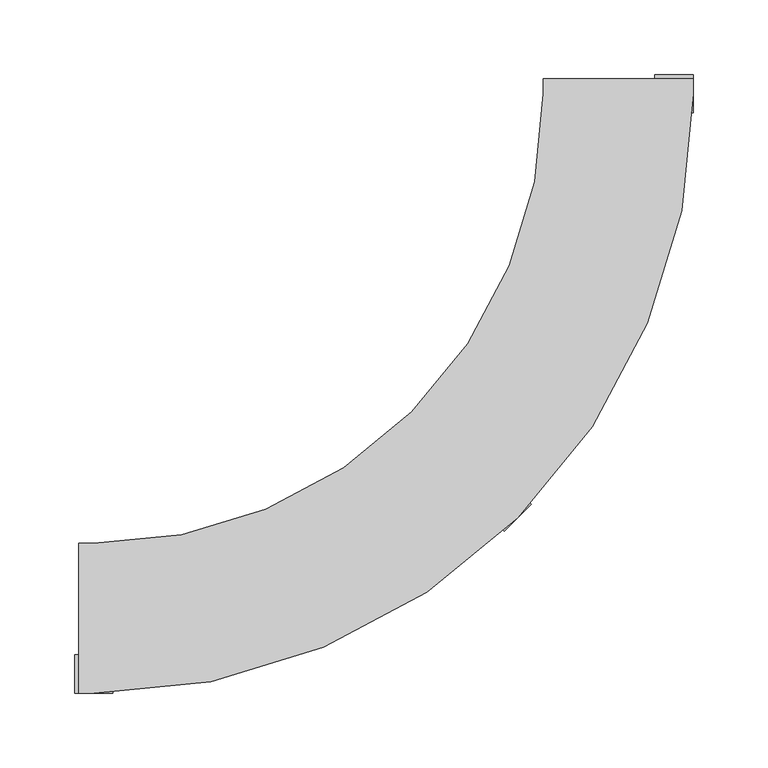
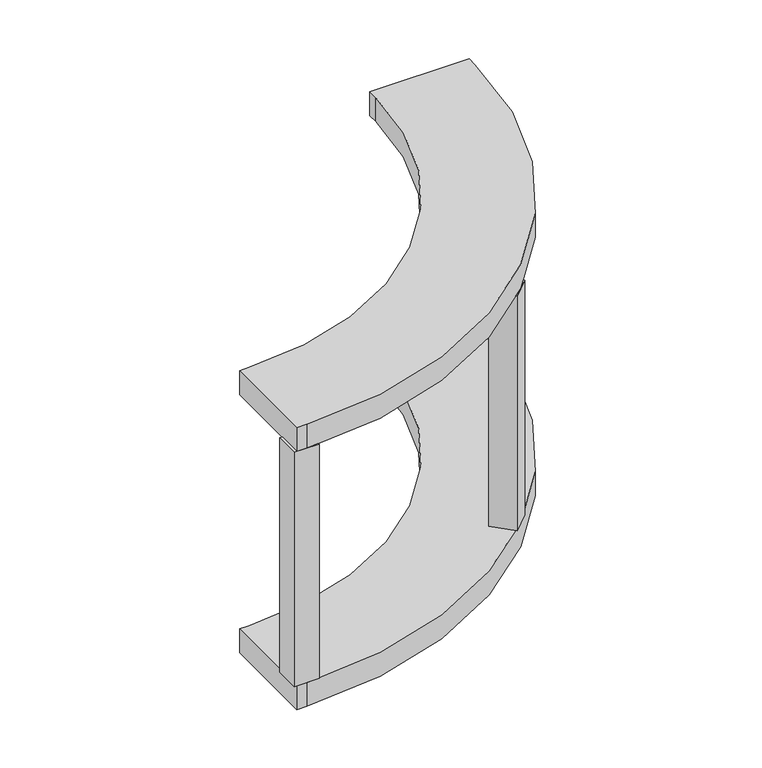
"""IFC4 building model written with IfcOpenShell, lengths in millimetres: cable carrier fitting geometry, ADSK_Поворот вертикальный внутренний_Лестничный лоток : Радиус 300 мм."""

from ifc_helpers import new_model, si_unit, point, frame, frame_2d, origin, place, context, project, spatial, polyline, circle_curve, trimmed, segment, composite_curve, outline, extrude, source, transform, mapped, element, save


def cable_carrier_fitting_ae96e051(model_context):
    return source(origin(), model_context, "Body", "SweptSolid", [
        extrude(outline(polyline([(24.6, 362.7), (50.0, 362.7), (50.0, 337.3), (24.6, 337.3), (24.6, 362.7)])), frame((0.0, 0.0, -124.6), z_axis=(0.0, 0.0, 1.0), x_axis=(1.0, 0.0, 0.0)), (0.0, 0.0, 1.0), 249.2),
        extrude(outline(polyline([(-76.1375436, 94.0980559), (-58.1770314, 76.1375436), (-76.1375436, 58.1770314), (-94.0980559, 76.1375436), (-76.1375436, 94.0980559)])), frame((0.0, 0.0, -124.6), z_axis=(0.0, 0.0, 1.0), x_axis=(1.0, 0.0, 0.0)), (0.0, 0.0, 1.0), 249.2),
        extrude(outline(polyline([(-362.7, -50.0), (-362.7, -24.6), (-337.3, -24.6), (-337.3, -50.0), (-362.7, -50.0)])), frame((0.0, 0.0, -124.6), z_axis=(0.0, 0.0, 1.0), x_axis=(1.0, 0.0, 0.0)), (0.0, 0.0, 1.0), 249.2),
        extrude(outline(composite_curve([segment(polyline([(-360.0, -50.0), (-360.0, 50.0), (-350.0, 50.0)]), True, "CONTINUOUS"), segment(trimmed(circle_curve(frame_2d((-350.0, 350.0)), 300.0), [point((-350.0, 50.0))], [point((-50.0, 350.0))], True, "CARTESIAN"), True, "CONTINUOUS"), segment(polyline([(-50.0, 350.0), (-50.0, 360.0), (50.0, 360.0), (50.0, 350.0)]), True, "CONTINUOUS"), segment(trimmed(circle_curve(frame_2d((-350.0, 350.0)), 400.0), [point((50.0, 350.0))], [point((-350.0, -50.0))], False, "CARTESIAN"), True, "CONTINUOUS"), segment(polyline([(-350.0, -50.0), (-360.0, -50.0)]), True, "CONTINUOUS")], self_intersect=False)), frame((0.0, 0.0, 124.6), z_axis=(0.0, 0.0, 1.0), x_axis=(1.0, 0.0, 0.0)), (0.0, 0.0, 1.0), 25.4),
        extrude(outline(composite_curve([segment(polyline([(-360.0, -50.0), (-360.0, 50.0), (-350.0, 50.0)]), True, "CONTINUOUS"), segment(trimmed(circle_curve(frame_2d((-350.0, 350.0)), 300.0), [point((-350.0, 50.0))], [point((-50.0, 350.0))], True, "CARTESIAN"), True, "CONTINUOUS"), segment(polyline([(-50.0, 350.0), (-50.0, 360.0), (50.0, 360.0), (50.0, 350.0)]), True, "CONTINUOUS"), segment(trimmed(circle_curve(frame_2d((-350.0, 350.0)), 400.0), [point((50.0, 350.0))], [point((-350.0, -50.0))], False, "CARTESIAN"), True, "CONTINUOUS"), segment(polyline([(-350.0, -50.0), (-360.0, -50.0)]), True, "CONTINUOUS")], self_intersect=False)), frame((0.0, 0.0, -150.0), z_axis=(0.0, 0.0, 1.0), x_axis=(1.0, 0.0, 0.0)), (0.0, 0.0, 1.0), 25.4),
    ])


if __name__ == "__main__":
    model = new_model("IFC4")
    model_context = context("Model", 3, world=origin())
    ifc_project = project(units=[si_unit("LENGTHUNIT", "METRE", prefix="MILLI")], contexts=[model_context])
    site = spatial("IfcSite", under=ifc_project)
    building = spatial("IfcBuilding", under=site)
    placement = place(None, origin())
    cable_carrier_fitting_shape = cable_carrier_fitting_ae96e051(model_context)
    element("IfcCableCarrierFitting", 1, ObjectType="ADSK_Поворот вертикальный внутренний_Лестничный лоток : Радиус 300 мм", at=placement, inside=building, context=model_context, shape_type="MappedRepresentation", body=[
        mapped(cable_carrier_fitting_shape, transform((0.0, 0.0, 0.0), x_axis=(1.0, 0.0, 0.0), y_axis=(0.0, 1.0, 0.0), z_axis=(0.0, 0.0, 1.0))),
    ])
    save(model, "model.ifc")
